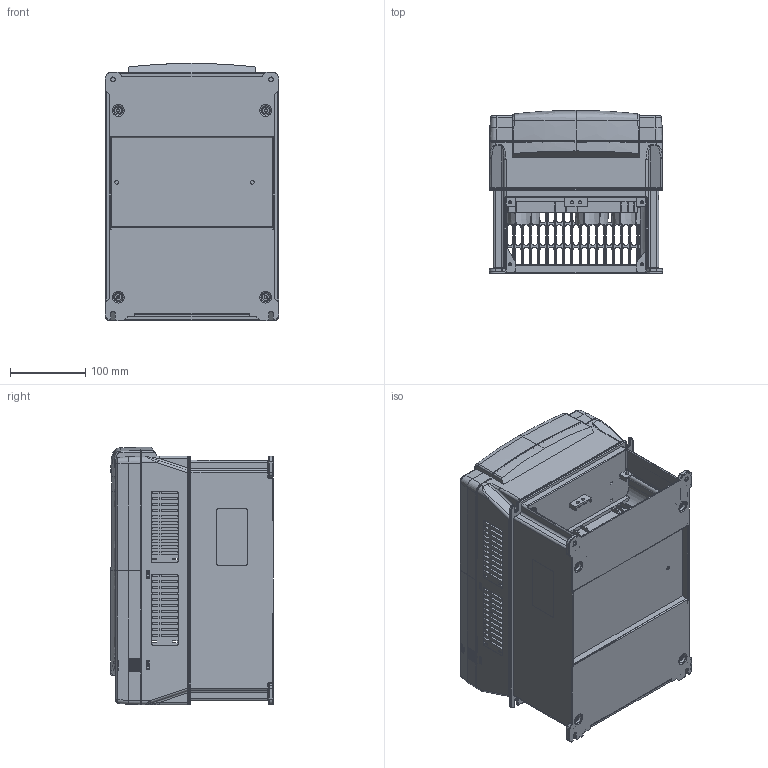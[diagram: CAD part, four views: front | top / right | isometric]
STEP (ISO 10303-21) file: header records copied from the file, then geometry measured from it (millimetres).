
FILE_DESCRIPTION((''),'2;1');
FILE_NAME('GD300-18G5_ASM','2016-03-10T',('Administrator'),(''),'PRO/ENGINEER BY PARAMETRIC TECHNOLOGY CORPORATION, 2010280','PRO/ENGINEER BY PARAMETRIC TECHNOLOGY CORPORATION, 2010280','');
FILE_SCHEMA(('CONFIG_CONTROL_DESIGN'));
Products named in the file (6): 80740007; 80740005; 80810001; 80810002; 80310002; GD300-18G5_ASM
Assembly tree (5 placements, depth 2):
  GD300-18G5_ASM
    80740007
    80740005
    80810001
    80810002
    80310002
Bounding box: 230 x 216.25 x 341.88 mm (x, y, z)
Volume: 1332763.9 mm3; surface area: 1257642.4 mm2
Topology: 8 solids, 10 shells, 6505 faces, 18411 edges, 11923 vertices
Faces by surface type: plane 4219, cylinder 1035, extrusion 516, bspline 309, torus 245, cone 153, sphere 28
Entity records: 226480 total; most frequent: CARTESIAN_POINT 60174, ORIENTED_EDGE 36766, DIRECTION 30809, EDGE_CURVE 18387, VECTOR 14121, LINE 13605, VERTEX_POINT 11923, AXIS2_PLACEMENT_3D 8344
